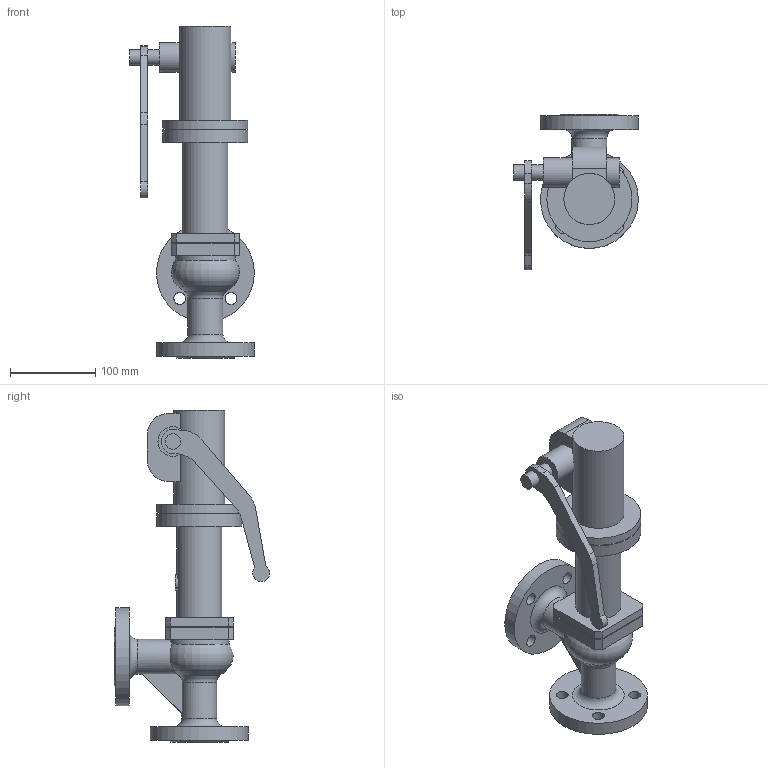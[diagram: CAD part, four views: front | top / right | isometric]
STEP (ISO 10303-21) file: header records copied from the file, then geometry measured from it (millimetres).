
FILE_DESCRIPTION(('STEP AP203'), '1');
FILE_NAME('Êëàïàí ïðåäîõðàíèòåëüíûé ñðåäíåïîäüåìíûé SV1F 25x25', '', ('UNSPECIFIED'), ('UNSPECIFIED'), 'ASCON STEP Converter 1.6', 'ASCON Math Kernel', '');
FILE_SCHEMA(('CONFIG_CONTROL_DESIGN'));
Length unit declared in the file: millimetre
Bounding box: 146.5 x 182.9 x 390 mm (x, y, z)
Volume: 1353656.2 mm3; surface area: 242401.1 mm2
Topology: 1 solids, 3 shells, 121 faces, 316 edges, 210 vertices
Faces by surface type: plane 69, cylinder 44, torus 5, cone 3
Full cylindrical faces by diameter (mm): 14 x8, 18 x2, 25 x3, 35 x2, 39 x1, 41 x2, 44 x1, 53 x1, 57 x1, 60 x1, 80 x1, 100 x2, 115 x2
Entity records: 6353 total; most frequent: CARTESIAN_POINT 2445, DIRECTION 598, ORIENTED_EDGE 562, EDGE_CURVE 281, AXIS2_PLACEMENT_3D 236, VERTEX_POINT 210, EDGE_LOOP 181, FACE_BOUND 134
